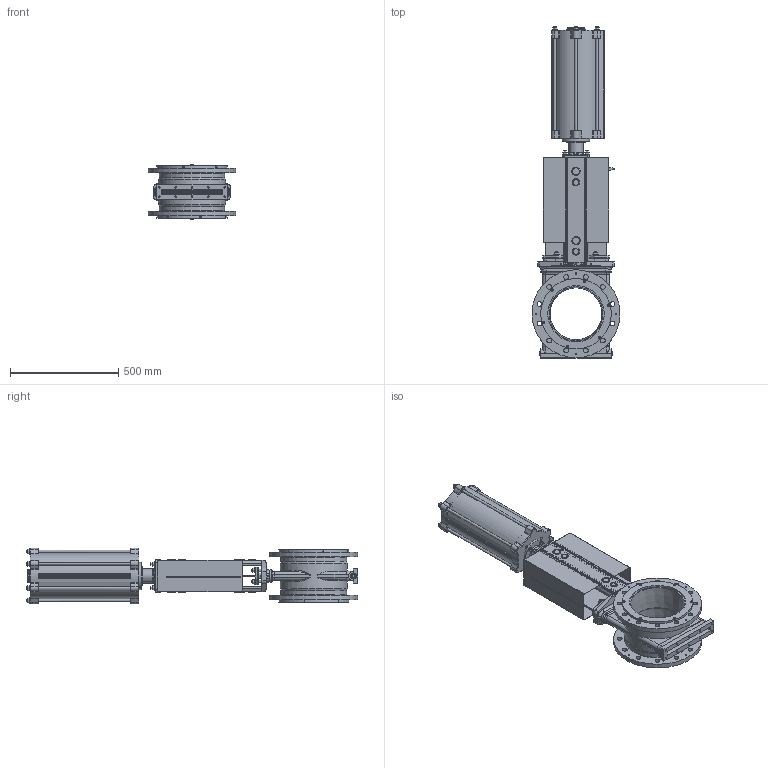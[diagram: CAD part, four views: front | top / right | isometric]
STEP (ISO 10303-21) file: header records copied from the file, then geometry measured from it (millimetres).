
FILE_DESCRIPTION(/* description */ (''),/* implementation_level */ '2;1');
FILE_NAME(/* name */ 'F:\Emir\3D-block special\SLV\SLF-DN250-PN10-FRSC200-320+LDR.stp',/* time_stamp */ '2018-10-15T13:15:01+02:00',/* author */ ('emimus'),/* organization */ (''),/* preprocessor_version */ 'ST-DEVELOPER v17.2',/* originating_system */ 'Autodesk Inventor 2019',/* authorisation */ '');
FILE_SCHEMA (('CONFIG_CONTROL_DESIGN'));
Length unit declared in the file: millimetre
Products named in the file (1): SLF-DN250-PN10-FRSC200-320+LDR
Bounding box: 406 x 1532.5 x 256 mm (x, y, z)
Volume: 19700727.5 mm3; surface area: 4317258.7 mm2
Topology: 3 solids, 3 shells, 3539 faces, 9094 edges, 5779 vertices
Faces by surface type: plane 1367, cylinder 791, bspline 577, cone 344, torus 332, sphere 128
Full cylindrical faces by diameter (mm): 3 x10, 4 x2, 4.2 x16, 4.5 x8, 4.917 x12, 6 x2, 6.4 x2, 6.647 x10, 7 x10, 8.88 x1, 9.5 x2, 10 x21, 10.106 x2, 11 x12, 12 x38, 13 x22, 13.835 x4, 14.63 x4, 15 x8, 18 x2, 18.631 x2, 19 x4, 20 x2, 20.5 x1, 22 x24, 23 x4, 24 x19, 24.117 x2, 25.8 x2, 27 x1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
Entity records: 123259 total; most frequent: CARTESIAN_POINT 39326, ORIENTED_EDGE 18076, DIRECTION 17092, EDGE_CURVE 9038, AXIS2_PLACEMENT_3D 6805, VERTEX_POINT 5779, EDGE_LOOP 3999, CIRCLE 3545
